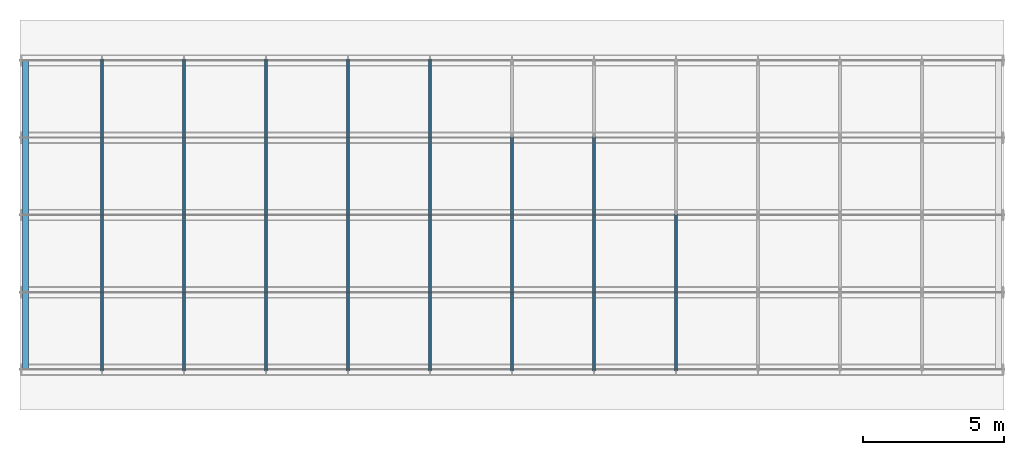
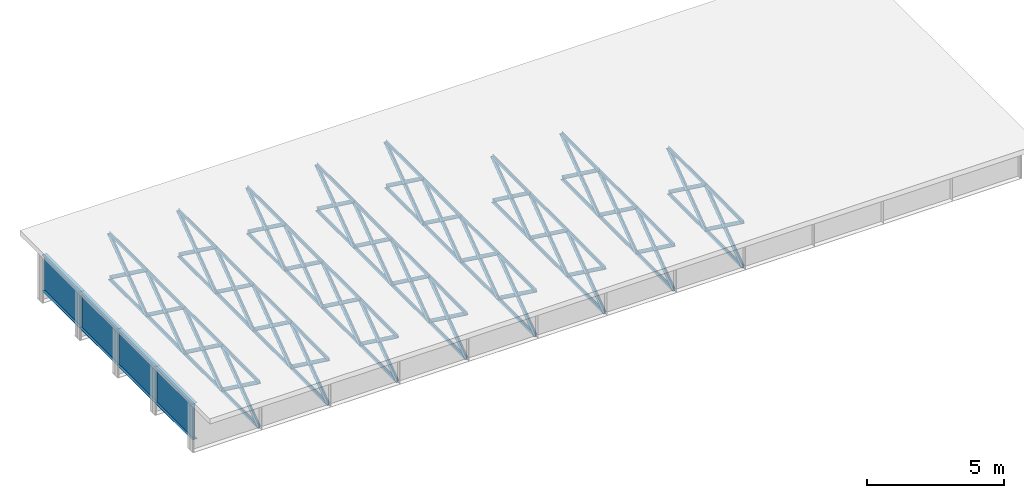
# One storey, part 1 of 17: 116 members.
"""IFC4 building model written with IfcOpenShell, lengths in metres."""

from ifc_helpers import new_model, si_unit, frame, origin, origin_with_axes, origin_2d_with_axis, place, context, subcontext, project, spatial, i_section, l_section, extrude, element, save


model = new_model("IFC4")

# Units and contexts
model_context = context("Model", 3, precision=1e-05, world=origin())
body_context = subcontext(model_context, "Body", "Model", "MODEL_VIEW")
ifc_project = project(units=[si_unit("LENGTHUNIT", "METRE"), si_unit("AREAUNIT", "SQUARE_METRE"), si_unit("VOLUMEUNIT", "CUBIC_METRE"), si_unit("PLANEANGLEUNIT", "RADIAN")], contexts=[model_context])

# Site, building, storey
site_placement = place(None, origin_with_axes())
site = spatial("IfcSite", under=ifc_project, at=site_placement, Name="Default Site")
building_placement = place(site_placement, origin_with_axes())
building = spatial("IfcBuilding", under=site, at=building_placement, Name="Bridge Structure")
storey_placement = place(building_placement, origin_with_axes())
storey = spatial("IfcBuildingStorey", under=building, at=storey_placement, Name="Superstructure")

# Members
for number, where, z_axis, x_axis, name in (
    (1, (0.2, -5.5, 0.2014999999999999), (0.0, 1.0, 0.0), (-1.0, 0.0, 0.0), "End Diaphragm"),
    (2, (0.2, -2.75, 0.2014999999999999), (0.0, 1.0, 0.0), (-1.0, 0.0, 0.0), "End Diaphragm"),
    (3, (0.2, 0.0, 0.2014999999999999), (0.0, 1.0, 0.0), (-1.0, 0.0, 0.0), "End Diaphragm"),
    (4, (0.2, 2.75, 0.2014999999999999), (0.0, 1.0, 0.0), (-1.0, 0.0, 0.0), "End Diaphragm"),
):
    element("IfcMember", number, at=place(storey_placement, frame(where, z_axis=z_axis, x_axis=x_axis)), inside=storey, Name=name, context=body_context, shape_type="SweptSolid", body=[
        extrude(i_section(OverallWidth=0.21, OverallDepth=1.611, WebThickness=0.014, FlangeThickness=0.012, at=origin_2d_with_axis()), origin_with_axes(), (0.0, 0.0, 1.0), 2.75),
    ])
for number, where, z_axis, x_axis, name in (
    (5, (2.9166666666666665, -5.5, 1.007), (0.0, 0.806777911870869, -0.590854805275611), (-1.0, 0.0, 0.0), "Diagonal Brace"),
    (6, (2.9166666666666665, -5.5, -1.007), (0.0, 0.806777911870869, 0.590854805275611), (-1.0, 0.0, 0.0), "Diagonal Brace"),
):
    element("IfcMember", number, at=place(storey_placement, frame(where, z_axis=z_axis, x_axis=x_axis)), inside=storey, Name=name, context=body_context, shape_type="SweptSolid", body=[
        extrude(l_section(Depth=0.151, Width=0.1, Thickness=0.008, at=origin_2d_with_axis()), origin_with_axes(), (0.0, 0.0, 1.0), 3.4086208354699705),
    ])
for number, where, z_axis, x_axis, name in (
    (7, (2.9166666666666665, -5.5, -1.007), (0.0, 1.0, 0.0), (-1.0, 0.0, 0.0), "Bottom Chord"),
    (8, (2.9166666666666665, -5.5, 1.007), (0.0, 1.0, 0.0), (-1.0, 0.0, 0.0), "Top Chord"),
):
    element("IfcMember", number, at=place(storey_placement, frame(where, z_axis=z_axis, x_axis=x_axis)), inside=storey, Name=name, context=body_context, shape_type="SweptSolid", body=[
        extrude(l_section(Depth=0.13, Width=0.08, Thickness=0.008, at=origin_2d_with_axis()), origin_with_axes(), (0.0, 0.0, 1.0), 2.75),
    ])
for number, where, z_axis, x_axis, name in (
    (9, (2.9166666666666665, -2.75, 1.007), (0.0, 0.806777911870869, -0.590854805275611), (-1.0, 0.0, 0.0), "Diagonal Brace"),
    (10, (2.9166666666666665, -2.75, -1.007), (0.0, 0.806777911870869, 0.590854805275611), (-1.0, 0.0, 0.0), "Diagonal Brace"),
):
    element("IfcMember", number, at=place(storey_placement, frame(where, z_axis=z_axis, x_axis=x_axis)), inside=storey, Name=name, context=body_context, shape_type="SweptSolid", body=[
        extrude(l_section(Depth=0.151, Width=0.1, Thickness=0.008, at=origin_2d_with_axis()), origin_with_axes(), (0.0, 0.0, 1.0), 3.4086208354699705),
    ])
for number, where, z_axis, x_axis, name in (
    (11, (2.9166666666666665, -2.75, -1.007), (0.0, 1.0, 0.0), (-1.0, 0.0, 0.0), "Bottom Chord"),
    (12, (2.9166666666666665, -2.75, 1.007), (0.0, 1.0, 0.0), (-1.0, 0.0, 0.0), "Top Chord"),
):
    element("IfcMember", number, at=place(storey_placement, frame(where, z_axis=z_axis, x_axis=x_axis)), inside=storey, Name=name, context=body_context, shape_type="SweptSolid", body=[
        extrude(l_section(Depth=0.13, Width=0.08, Thickness=0.008, at=origin_2d_with_axis()), origin_with_axes(), (0.0, 0.0, 1.0), 2.75),
    ])
for number, where, z_axis, x_axis, name in (
    (13, (2.9166666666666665, 0.0, 1.007), (0.0, 0.806777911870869, -0.590854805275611), (-1.0, 0.0, 0.0), "Diagonal Brace"),
    (14, (2.9166666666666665, 0.0, -1.007), (0.0, 0.806777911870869, 0.590854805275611), (-1.0, 0.0, 0.0), "Diagonal Brace"),
):
    element("IfcMember", number, at=place(storey_placement, frame(where, z_axis=z_axis, x_axis=x_axis)), inside=storey, Name=name, context=body_context, shape_type="SweptSolid", body=[
        extrude(l_section(Depth=0.151, Width=0.1, Thickness=0.008, at=origin_2d_with_axis()), origin_with_axes(), (0.0, 0.0, 1.0), 3.4086208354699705),
    ])
for number, where, z_axis, x_axis, name in (
    (15, (2.9166666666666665, 0.0, -1.007), (0.0, 1.0, 0.0), (-1.0, 0.0, 0.0), "Bottom Chord"),
    (16, (2.9166666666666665, 0.0, 1.007), (0.0, 1.0, 0.0), (-1.0, 0.0, 0.0), "Top Chord"),
):
    element("IfcMember", number, at=place(storey_placement, frame(where, z_axis=z_axis, x_axis=x_axis)), inside=storey, Name=name, context=body_context, shape_type="SweptSolid", body=[
        extrude(l_section(Depth=0.13, Width=0.08, Thickness=0.008, at=origin_2d_with_axis()), origin_with_axes(), (0.0, 0.0, 1.0), 2.75),
    ])
for number, where, z_axis, x_axis, name in (
    (17, (2.9166666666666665, 2.75, 1.007), (0.0, 0.806777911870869, -0.590854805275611), (-1.0, 0.0, 0.0), "Diagonal Brace"),
    (18, (2.9166666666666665, 2.75, -1.007), (0.0, 0.806777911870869, 0.590854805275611), (-1.0, 0.0, 0.0), "Diagonal Brace"),
):
    element("IfcMember", number, at=place(storey_placement, frame(where, z_axis=z_axis, x_axis=x_axis)), inside=storey, Name=name, context=body_context, shape_type="SweptSolid", body=[
        extrude(l_section(Depth=0.151, Width=0.1, Thickness=0.008, at=origin_2d_with_axis()), origin_with_axes(), (0.0, 0.0, 1.0), 3.4086208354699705),
    ])
for number, where, z_axis, x_axis, name in (
    (19, (2.9166666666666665, 2.75, -1.007), (0.0, 1.0, 0.0), (-1.0, 0.0, 0.0), "Bottom Chord"),
    (20, (2.9166666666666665, 2.75, 1.007), (0.0, 1.0, 0.0), (-1.0, 0.0, 0.0), "Top Chord"),
):
    element("IfcMember", number, at=place(storey_placement, frame(where, z_axis=z_axis, x_axis=x_axis)), inside=storey, Name=name, context=body_context, shape_type="SweptSolid", body=[
        extrude(l_section(Depth=0.13, Width=0.08, Thickness=0.008, at=origin_2d_with_axis()), origin_with_axes(), (0.0, 0.0, 1.0), 2.75),
    ])
for number, where, z_axis, x_axis, name in (
    (21, (5.833333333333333, -5.5, 1.007), (0.0, 0.806777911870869, -0.590854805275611), (-1.0, 0.0, 0.0), "Diagonal Brace"),
    (22, (5.833333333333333, -5.5, -1.007), (0.0, 0.806777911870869, 0.590854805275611), (-1.0, 0.0, 0.0), "Diagonal Brace"),
):
    element("IfcMember", number, at=place(storey_placement, frame(where, z_axis=z_axis, x_axis=x_axis)), inside=storey, Name=name, context=body_context, shape_type="SweptSolid", body=[
        extrude(l_section(Depth=0.151, Width=0.1, Thickness=0.008, at=origin_2d_with_axis()), origin_with_axes(), (0.0, 0.0, 1.0), 3.4086208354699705),
    ])
for number, where, z_axis, x_axis, name in (
    (23, (5.833333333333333, -5.5, -1.007), (0.0, 1.0, 0.0), (-1.0, 0.0, 0.0), "Bottom Chord"),
    (24, (5.833333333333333, -5.5, 1.007), (0.0, 1.0, 0.0), (-1.0, 0.0, 0.0), "Top Chord"),
):
    element("IfcMember", number, at=place(storey_placement, frame(where, z_axis=z_axis, x_axis=x_axis)), inside=storey, Name=name, context=body_context, shape_type="SweptSolid", body=[
        extrude(l_section(Depth=0.13, Width=0.08, Thickness=0.008, at=origin_2d_with_axis()), origin_with_axes(), (0.0, 0.0, 1.0), 2.75),
    ])
for number, where, z_axis, x_axis, name in (
    (25, (5.833333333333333, -2.75, 1.007), (0.0, 0.806777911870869, -0.590854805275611), (-1.0, 0.0, 0.0), "Diagonal Brace"),
    (26, (5.833333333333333, -2.75, -1.007), (0.0, 0.806777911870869, 0.590854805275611), (-1.0, 0.0, 0.0), "Diagonal Brace"),
):
    element("IfcMember", number, at=place(storey_placement, frame(where, z_axis=z_axis, x_axis=x_axis)), inside=storey, Name=name, context=body_context, shape_type="SweptSolid", body=[
        extrude(l_section(Depth=0.151, Width=0.1, Thickness=0.008, at=origin_2d_with_axis()), origin_with_axes(), (0.0, 0.0, 1.0), 3.4086208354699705),
    ])
for number, where, z_axis, x_axis, name in (
    (27, (5.833333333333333, -2.75, -1.007), (0.0, 1.0, 0.0), (-1.0, 0.0, 0.0), "Bottom Chord"),
    (28, (5.833333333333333, -2.75, 1.007), (0.0, 1.0, 0.0), (-1.0, 0.0, 0.0), "Top Chord"),
):
    element("IfcMember", number, at=place(storey_placement, frame(where, z_axis=z_axis, x_axis=x_axis)), inside=storey, Name=name, context=body_context, shape_type="SweptSolid", body=[
        extrude(l_section(Depth=0.13, Width=0.08, Thickness=0.008, at=origin_2d_with_axis()), origin_with_axes(), (0.0, 0.0, 1.0), 2.75),
    ])
for number, where, z_axis, x_axis, name in (
    (29, (5.833333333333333, 0.0, 1.007), (0.0, 0.806777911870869, -0.590854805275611), (-1.0, 0.0, 0.0), "Diagonal Brace"),
    (30, (5.833333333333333, 0.0, -1.007), (0.0, 0.806777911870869, 0.590854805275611), (-1.0, 0.0, 0.0), "Diagonal Brace"),
):
    element("IfcMember", number, at=place(storey_placement, frame(where, z_axis=z_axis, x_axis=x_axis)), inside=storey, Name=name, context=body_context, shape_type="SweptSolid", body=[
        extrude(l_section(Depth=0.151, Width=0.1, Thickness=0.008, at=origin_2d_with_axis()), origin_with_axes(), (0.0, 0.0, 1.0), 3.4086208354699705),
    ])
for number, where, z_axis, x_axis, name in (
    (31, (5.833333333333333, 0.0, -1.007), (0.0, 1.0, 0.0), (-1.0, 0.0, 0.0), "Bottom Chord"),
    (32, (5.833333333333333, 0.0, 1.007), (0.0, 1.0, 0.0), (-1.0, 0.0, 0.0), "Top Chord"),
):
    element("IfcMember", number, at=place(storey_placement, frame(where, z_axis=z_axis, x_axis=x_axis)), inside=storey, Name=name, context=body_context, shape_type="SweptSolid", body=[
        extrude(l_section(Depth=0.13, Width=0.08, Thickness=0.008, at=origin_2d_with_axis()), origin_with_axes(), (0.0, 0.0, 1.0), 2.75),
    ])
for number, where, z_axis, x_axis, name in (
    (33, (5.833333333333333, 2.75, 1.007), (0.0, 0.806777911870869, -0.590854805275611), (-1.0, 0.0, 0.0), "Diagonal Brace"),
    (34, (5.833333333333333, 2.75, -1.007), (0.0, 0.806777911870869, 0.590854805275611), (-1.0, 0.0, 0.0), "Diagonal Brace"),
):
    element("IfcMember", number, at=place(storey_placement, frame(where, z_axis=z_axis, x_axis=x_axis)), inside=storey, Name=name, context=body_context, shape_type="SweptSolid", body=[
        extrude(l_section(Depth=0.151, Width=0.1, Thickness=0.008, at=origin_2d_with_axis()), origin_with_axes(), (0.0, 0.0, 1.0), 3.4086208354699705),
    ])
for number, where, z_axis, x_axis, name in (
    (35, (5.833333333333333, 2.75, -1.007), (0.0, 1.0, 0.0), (-1.0, 0.0, 0.0), "Bottom Chord"),
    (36, (5.833333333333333, 2.75, 1.007), (0.0, 1.0, 0.0), (-1.0, 0.0, 0.0), "Top Chord"),
):
    element("IfcMember", number, at=place(storey_placement, frame(where, z_axis=z_axis, x_axis=x_axis)), inside=storey, Name=name, context=body_context, shape_type="SweptSolid", body=[
        extrude(l_section(Depth=0.13, Width=0.08, Thickness=0.008, at=origin_2d_with_axis()), origin_with_axes(), (0.0, 0.0, 1.0), 2.75),
    ])
for number, where, z_axis, x_axis, name in (
    (37, (8.75, -5.5, 1.007), (0.0, 0.806777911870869, -0.590854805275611), (-1.0, 0.0, 0.0), "Diagonal Brace"),
    (38, (8.75, -5.5, -1.007), (0.0, 0.806777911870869, 0.590854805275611), (-1.0, 0.0, 0.0), "Diagonal Brace"),
):
    element("IfcMember", number, at=place(storey_placement, frame(where, z_axis=z_axis, x_axis=x_axis)), inside=storey, Name=name, context=body_context, shape_type="SweptSolid", body=[
        extrude(l_section(Depth=0.151, Width=0.1, Thickness=0.008, at=origin_2d_with_axis()), origin_with_axes(), (0.0, 0.0, 1.0), 3.4086208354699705),
    ])
for number, where, z_axis, x_axis, name in (
    (39, (8.75, -5.5, -1.007), (0.0, 1.0, 0.0), (-1.0, 0.0, 0.0), "Bottom Chord"),
    (40, (8.75, -5.5, 1.007), (0.0, 1.0, 0.0), (-1.0, 0.0, 0.0), "Top Chord"),
):
    element("IfcMember", number, at=place(storey_placement, frame(where, z_axis=z_axis, x_axis=x_axis)), inside=storey, Name=name, context=body_context, shape_type="SweptSolid", body=[
        extrude(l_section(Depth=0.13, Width=0.08, Thickness=0.008, at=origin_2d_with_axis()), origin_with_axes(), (0.0, 0.0, 1.0), 2.75),
    ])
for number, where, z_axis, x_axis, name in (
    (41, (8.75, -2.75, 1.007), (0.0, 0.806777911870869, -0.590854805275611), (-1.0, 0.0, 0.0), "Diagonal Brace"),
    (42, (8.75, -2.75, -1.007), (0.0, 0.806777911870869, 0.590854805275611), (-1.0, 0.0, 0.0), "Diagonal Brace"),
):
    element("IfcMember", number, at=place(storey_placement, frame(where, z_axis=z_axis, x_axis=x_axis)), inside=storey, Name=name, context=body_context, shape_type="SweptSolid", body=[
        extrude(l_section(Depth=0.151, Width=0.1, Thickness=0.008, at=origin_2d_with_axis()), origin_with_axes(), (0.0, 0.0, 1.0), 3.4086208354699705),
    ])
for number, where, z_axis, x_axis, name in (
    (43, (8.75, -2.75, -1.007), (0.0, 1.0, 0.0), (-1.0, 0.0, 0.0), "Bottom Chord"),
    (44, (8.75, -2.75, 1.007), (0.0, 1.0, 0.0), (-1.0, 0.0, 0.0), "Top Chord"),
):
    element("IfcMember", number, at=place(storey_placement, frame(where, z_axis=z_axis, x_axis=x_axis)), inside=storey, Name=name, context=body_context, shape_type="SweptSolid", body=[
        extrude(l_section(Depth=0.13, Width=0.08, Thickness=0.008, at=origin_2d_with_axis()), origin_with_axes(), (0.0, 0.0, 1.0), 2.75),
    ])
for number, where, z_axis, x_axis, name in (
    (45, (8.75, 0.0, 1.007), (0.0, 0.806777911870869, -0.590854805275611), (-1.0, 0.0, 0.0), "Diagonal Brace"),
    (46, (8.75, 0.0, -1.007), (0.0, 0.806777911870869, 0.590854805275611), (-1.0, 0.0, 0.0), "Diagonal Brace"),
):
    element("IfcMember", number, at=place(storey_placement, frame(where, z_axis=z_axis, x_axis=x_axis)), inside=storey, Name=name, context=body_context, shape_type="SweptSolid", body=[
        extrude(l_section(Depth=0.151, Width=0.1, Thickness=0.008, at=origin_2d_with_axis()), origin_with_axes(), (0.0, 0.0, 1.0), 3.4086208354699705),
    ])
for number, where, z_axis, x_axis, name in (
    (47, (8.75, 0.0, -1.007), (0.0, 1.0, 0.0), (-1.0, 0.0, 0.0), "Bottom Chord"),
    (48, (8.75, 0.0, 1.007), (0.0, 1.0, 0.0), (-1.0, 0.0, 0.0), "Top Chord"),
):
    element("IfcMember", number, at=place(storey_placement, frame(where, z_axis=z_axis, x_axis=x_axis)), inside=storey, Name=name, context=body_context, shape_type="SweptSolid", body=[
        extrude(l_section(Depth=0.13, Width=0.08, Thickness=0.008, at=origin_2d_with_axis()), origin_with_axes(), (0.0, 0.0, 1.0), 2.75),
    ])
for number, where, z_axis, x_axis, name in (
    (49, (8.75, 2.75, 1.007), (0.0, 0.806777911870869, -0.590854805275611), (-1.0, 0.0, 0.0), "Diagonal Brace"),
    (50, (8.75, 2.75, -1.007), (0.0, 0.806777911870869, 0.590854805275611), (-1.0, 0.0, 0.0), "Diagonal Brace"),
):
    element("IfcMember", number, at=place(storey_placement, frame(where, z_axis=z_axis, x_axis=x_axis)), inside=storey, Name=name, context=body_context, shape_type="SweptSolid", body=[
        extrude(l_section(Depth=0.151, Width=0.1, Thickness=0.008, at=origin_2d_with_axis()), origin_with_axes(), (0.0, 0.0, 1.0), 3.4086208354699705),
    ])
for number, where, z_axis, x_axis, name in (
    (51, (8.75, 2.75, -1.007), (0.0, 1.0, 0.0), (-1.0, 0.0, 0.0), "Bottom Chord"),
    (52, (8.75, 2.75, 1.007), (0.0, 1.0, 0.0), (-1.0, 0.0, 0.0), "Top Chord"),
):
    element("IfcMember", number, at=place(storey_placement, frame(where, z_axis=z_axis, x_axis=x_axis)), inside=storey, Name=name, context=body_context, shape_type="SweptSolid", body=[
        extrude(l_section(Depth=0.13, Width=0.08, Thickness=0.008, at=origin_2d_with_axis()), origin_with_axes(), (0.0, 0.0, 1.0), 2.75),
    ])
for number, where, z_axis, x_axis, name in (
    (53, (11.666666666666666, -5.5, 1.007), (0.0, 0.806777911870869, -0.590854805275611), (-1.0, 0.0, 0.0), "Diagonal Brace"),
    (54, (11.666666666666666, -5.5, -1.007), (0.0, 0.806777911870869, 0.590854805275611), (-1.0, 0.0, 0.0), "Diagonal Brace"),
):
    element("IfcMember", number, at=place(storey_placement, frame(where, z_axis=z_axis, x_axis=x_axis)), inside=storey, Name=name, context=body_context, shape_type="SweptSolid", body=[
        extrude(l_section(Depth=0.151, Width=0.1, Thickness=0.008, at=origin_2d_with_axis()), origin_with_axes(), (0.0, 0.0, 1.0), 3.4086208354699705),
    ])
for number, where, z_axis, x_axis, name in (
    (55, (11.666666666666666, -5.5, -1.007), (0.0, 1.0, 0.0), (-1.0, 0.0, 0.0), "Bottom Chord"),
    (56, (11.666666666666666, -5.5, 1.007), (0.0, 1.0, 0.0), (-1.0, 0.0, 0.0), "Top Chord"),
):
    element("IfcMember", number, at=place(storey_placement, frame(where, z_axis=z_axis, x_axis=x_axis)), inside=storey, Name=name, context=body_context, shape_type="SweptSolid", body=[
        extrude(l_section(Depth=0.13, Width=0.08, Thickness=0.008, at=origin_2d_with_axis()), origin_with_axes(), (0.0, 0.0, 1.0), 2.75),
    ])
for number, where, z_axis, x_axis, name in (
    (57, (11.666666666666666, -2.75, 1.007), (0.0, 0.806777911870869, -0.590854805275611), (-1.0, 0.0, 0.0), "Diagonal Brace"),
    (58, (11.666666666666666, -2.75, -1.007), (0.0, 0.806777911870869, 0.590854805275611), (-1.0, 0.0, 0.0), "Diagonal Brace"),
):
    element("IfcMember", number, at=place(storey_placement, frame(where, z_axis=z_axis, x_axis=x_axis)), inside=storey, Name=name, context=body_context, shape_type="SweptSolid", body=[
        extrude(l_section(Depth=0.151, Width=0.1, Thickness=0.008, at=origin_2d_with_axis()), origin_with_axes(), (0.0, 0.0, 1.0), 3.4086208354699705),
    ])
for number, where, z_axis, x_axis, name in (
    (59, (11.666666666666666, -2.75, -1.007), (0.0, 1.0, 0.0), (-1.0, 0.0, 0.0), "Bottom Chord"),
    (60, (11.666666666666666, -2.75, 1.007), (0.0, 1.0, 0.0), (-1.0, 0.0, 0.0), "Top Chord"),
):
    element("IfcMember", number, at=place(storey_placement, frame(where, z_axis=z_axis, x_axis=x_axis)), inside=storey, Name=name, context=body_context, shape_type="SweptSolid", body=[
        extrude(l_section(Depth=0.13, Width=0.08, Thickness=0.008, at=origin_2d_with_axis()), origin_with_axes(), (0.0, 0.0, 1.0), 2.75),
    ])
for number, where, z_axis, x_axis, name in (
    (61, (11.666666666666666, 0.0, 1.007), (0.0, 0.806777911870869, -0.590854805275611), (-1.0, 0.0, 0.0), "Diagonal Brace"),
    (62, (11.666666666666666, 0.0, -1.007), (0.0, 0.806777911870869, 0.590854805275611), (-1.0, 0.0, 0.0), "Diagonal Brace"),
):
    element("IfcMember", number, at=place(storey_placement, frame(where, z_axis=z_axis, x_axis=x_axis)), inside=storey, Name=name, context=body_context, shape_type="SweptSolid", body=[
        extrude(l_section(Depth=0.151, Width=0.1, Thickness=0.008, at=origin_2d_with_axis()), origin_with_axes(), (0.0, 0.0, 1.0), 3.4086208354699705),
    ])
for number, where, z_axis, x_axis, name in (
    (63, (11.666666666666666, 0.0, -1.007), (0.0, 1.0, 0.0), (-1.0, 0.0, 0.0), "Bottom Chord"),
    (64, (11.666666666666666, 0.0, 1.007), (0.0, 1.0, 0.0), (-1.0, 0.0, 0.0), "Top Chord"),
):
    element("IfcMember", number, at=place(storey_placement, frame(where, z_axis=z_axis, x_axis=x_axis)), inside=storey, Name=name, context=body_context, shape_type="SweptSolid", body=[
        extrude(l_section(Depth=0.13, Width=0.08, Thickness=0.008, at=origin_2d_with_axis()), origin_with_axes(), (0.0, 0.0, 1.0), 2.75),
    ])
for number, where, z_axis, x_axis, name in (
    (65, (11.666666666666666, 2.75, 1.007), (0.0, 0.806777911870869, -0.590854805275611), (-1.0, 0.0, 0.0), "Diagonal Brace"),
    (66, (11.666666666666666, 2.75, -1.007), (0.0, 0.806777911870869, 0.590854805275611), (-1.0, 0.0, 0.0), "Diagonal Brace"),
):
    element("IfcMember", number, at=place(storey_placement, frame(where, z_axis=z_axis, x_axis=x_axis)), inside=storey, Name=name, context=body_context, shape_type="SweptSolid", body=[
        extrude(l_section(Depth=0.151, Width=0.1, Thickness=0.008, at=origin_2d_with_axis()), origin_with_axes(), (0.0, 0.0, 1.0), 3.4086208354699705),
    ])
for number, where, z_axis, x_axis, name in (
    (67, (11.666666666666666, 2.75, -1.007), (0.0, 1.0, 0.0), (-1.0, 0.0, 0.0), "Bottom Chord"),
    (68, (11.666666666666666, 2.75, 1.007), (0.0, 1.0, 0.0), (-1.0, 0.0, 0.0), "Top Chord"),
):
    element("IfcMember", number, at=place(storey_placement, frame(where, z_axis=z_axis, x_axis=x_axis)), inside=storey, Name=name, context=body_context, shape_type="SweptSolid", body=[
        extrude(l_section(Depth=0.13, Width=0.08, Thickness=0.008, at=origin_2d_with_axis()), origin_with_axes(), (0.0, 0.0, 1.0), 2.75),
    ])
for number, where, z_axis, x_axis, name in (
    (69, (14.583333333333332, -5.5, 1.007), (0.0, 0.806777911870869, -0.590854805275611), (-1.0, 0.0, 0.0), "Diagonal Brace"),
    (70, (14.583333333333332, -5.5, -1.007), (0.0, 0.806777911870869, 0.590854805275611), (-1.0, 0.0, 0.0), "Diagonal Brace"),
):
    element("IfcMember", number, at=place(storey_placement, frame(where, z_axis=z_axis, x_axis=x_axis)), inside=storey, Name=name, context=body_context, shape_type="SweptSolid", body=[
        extrude(l_section(Depth=0.151, Width=0.1, Thickness=0.008, at=origin_2d_with_axis()), origin_with_axes(), (0.0, 0.0, 1.0), 3.4086208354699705),
    ])
for number, where, z_axis, x_axis, name in (
    (71, (14.583333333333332, -5.5, -1.007), (0.0, 1.0, 0.0), (-1.0, 0.0, 0.0), "Bottom Chord"),
    (72, (14.583333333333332, -5.5, 1.007), (0.0, 1.0, 0.0), (-1.0, 0.0, 0.0), "Top Chord"),
):
    element("IfcMember", number, at=place(storey_placement, frame(where, z_axis=z_axis, x_axis=x_axis)), inside=storey, Name=name, context=body_context, shape_type="SweptSolid", body=[
        extrude(l_section(Depth=0.13, Width=0.08, Thickness=0.008, at=origin_2d_with_axis()), origin_with_axes(), (0.0, 0.0, 1.0), 2.75),
    ])
for number, where, z_axis, x_axis, name in (
    (73, (14.583333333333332, -2.75, 1.007), (0.0, 0.806777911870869, -0.590854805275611), (-1.0, 0.0, 0.0), "Diagonal Brace"),
    (74, (14.583333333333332, -2.75, -1.007), (0.0, 0.806777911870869, 0.590854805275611), (-1.0, 0.0, 0.0), "Diagonal Brace"),
):
    element("IfcMember", number, at=place(storey_placement, frame(where, z_axis=z_axis, x_axis=x_axis)), inside=storey, Name=name, context=body_context, shape_type="SweptSolid", body=[
        extrude(l_section(Depth=0.151, Width=0.1, Thickness=0.008, at=origin_2d_with_axis()), origin_with_axes(), (0.0, 0.0, 1.0), 3.4086208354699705),
    ])
for number, where, z_axis, x_axis, name in (
    (75, (14.583333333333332, -2.75, -1.007), (0.0, 1.0, 0.0), (-1.0, 0.0, 0.0), "Bottom Chord"),
    (76, (14.583333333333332, -2.75, 1.007), (0.0, 1.0, 0.0), (-1.0, 0.0, 0.0), "Top Chord"),
):
    element("IfcMember", number, at=place(storey_placement, frame(where, z_axis=z_axis, x_axis=x_axis)), inside=storey, Name=name, context=body_context, shape_type="SweptSolid", body=[
        extrude(l_section(Depth=0.13, Width=0.08, Thickness=0.008, at=origin_2d_with_axis()), origin_with_axes(), (0.0, 0.0, 1.0), 2.75),
    ])
for number, where, z_axis, x_axis, name in (
    (77, (14.583333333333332, 0.0, 1.007), (0.0, 0.806777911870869, -0.590854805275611), (-1.0, 0.0, 0.0), "Diagonal Brace"),
    (78, (14.583333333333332, 0.0, -1.007), (0.0, 0.806777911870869, 0.590854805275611), (-1.0, 0.0, 0.0), "Diagonal Brace"),
):
    element("IfcMember", number, at=place(storey_placement, frame(where, z_axis=z_axis, x_axis=x_axis)), inside=storey, Name=name, context=body_context, shape_type="SweptSolid", body=[
        extrude(l_section(Depth=0.151, Width=0.1, Thickness=0.008, at=origin_2d_with_axis()), origin_with_axes(), (0.0, 0.0, 1.0), 3.4086208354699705),
    ])
for number, where, z_axis, x_axis, name in (
    (79, (14.583333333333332, 0.0, -1.007), (0.0, 1.0, 0.0), (-1.0, 0.0, 0.0), "Bottom Chord"),
    (80, (14.583333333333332, 0.0, 1.007), (0.0, 1.0, 0.0), (-1.0, 0.0, 0.0), "Top Chord"),
):
    element("IfcMember", number, at=place(storey_placement, frame(where, z_axis=z_axis, x_axis=x_axis)), inside=storey, Name=name, context=body_context, shape_type="SweptSolid", body=[
        extrude(l_section(Depth=0.13, Width=0.08, Thickness=0.008, at=origin_2d_with_axis()), origin_with_axes(), (0.0, 0.0, 1.0), 2.75),
    ])
for number, where, z_axis, x_axis, name in (
    (81, (14.583333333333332, 2.75, 1.007), (0.0, 0.806777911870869, -0.590854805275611), (-1.0, 0.0, 0.0), "Diagonal Brace"),
    (82, (14.583333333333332, 2.75, -1.007), (0.0, 0.806777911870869, 0.590854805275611), (-1.0, 0.0, 0.0), "Diagonal Brace"),
):
    element("IfcMember", number, at=place(storey_placement, frame(where, z_axis=z_axis, x_axis=x_axis)), inside=storey, Name=name, context=body_context, shape_type="SweptSolid", body=[
        extrude(l_section(Depth=0.151, Width=0.1, Thickness=0.008, at=origin_2d_with_axis()), origin_with_axes(), (0.0, 0.0, 1.0), 3.4086208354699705),
    ])
for number, where, z_axis, x_axis, name in (
    (83, (14.583333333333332, 2.75, -1.007), (0.0, 1.0, 0.0), (-1.0, 0.0, 0.0), "Bottom Chord"),
    (84, (14.583333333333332, 2.75, 1.007), (0.0, 1.0, 0.0), (-1.0, 0.0, 0.0), "Top Chord"),
):
    element("IfcMember", number, at=place(storey_placement, frame(where, z_axis=z_axis, x_axis=x_axis)), inside=storey, Name=name, context=body_context, shape_type="SweptSolid", body=[
        extrude(l_section(Depth=0.13, Width=0.08, Thickness=0.008, at=origin_2d_with_axis()), origin_with_axes(), (0.0, 0.0, 1.0), 2.75),
    ])
for number, where, z_axis, x_axis, name in (
    (85, (17.5, -5.5, 1.007), (0.0, 0.806777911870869, -0.590854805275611), (-1.0, 0.0, 0.0), "Diagonal Brace"),
    (86, (17.5, -5.5, -1.007), (0.0, 0.806777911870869, 0.590854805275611), (-1.0, 0.0, 0.0), "Diagonal Brace"),
):
    element("IfcMember", number, at=place(storey_placement, frame(where, z_axis=z_axis, x_axis=x_axis)), inside=storey, Name=name, context=body_context, shape_type="SweptSolid", body=[
        extrude(l_section(Depth=0.151, Width=0.1, Thickness=0.008, at=origin_2d_with_axis()), origin_with_axes(), (0.0, 0.0, 1.0), 3.4086208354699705),
    ])
for number, where, z_axis, x_axis, name in (
    (87, (17.5, -5.5, -1.007), (0.0, 1.0, 0.0), (-1.0, 0.0, 0.0), "Bottom Chord"),
    (88, (17.5, -5.5, 1.007), (0.0, 1.0, 0.0), (-1.0, 0.0, 0.0), "Top Chord"),
):
    element("IfcMember", number, at=place(storey_placement, frame(where, z_axis=z_axis, x_axis=x_axis)), inside=storey, Name=name, context=body_context, shape_type="SweptSolid", body=[
        extrude(l_section(Depth=0.13, Width=0.08, Thickness=0.008, at=origin_2d_with_axis()), origin_with_axes(), (0.0, 0.0, 1.0), 2.75),
    ])
for number, where, z_axis, x_axis, name in (
    (89, (17.5, -2.75, 1.007), (0.0, 0.806777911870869, -0.590854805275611), (-1.0, 0.0, 0.0), "Diagonal Brace"),
    (90, (17.5, -2.75, -1.007), (0.0, 0.806777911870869, 0.590854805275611), (-1.0, 0.0, 0.0), "Diagonal Brace"),
):
    element("IfcMember", number, at=place(storey_placement, frame(where, z_axis=z_axis, x_axis=x_axis)), inside=storey, Name=name, context=body_context, shape_type="SweptSolid", body=[
        extrude(l_section(Depth=0.151, Width=0.1, Thickness=0.008, at=origin_2d_with_axis()), origin_with_axes(), (0.0, 0.0, 1.0), 3.4086208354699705),
    ])
for number, where, z_axis, x_axis, name in (
    (91, (17.5, -2.75, -1.007), (0.0, 1.0, 0.0), (-1.0, 0.0, 0.0), "Bottom Chord"),
    (92, (17.5, -2.75, 1.007), (0.0, 1.0, 0.0), (-1.0, 0.0, 0.0), "Top Chord"),
):
    element("IfcMember", number, at=place(storey_placement, frame(where, z_axis=z_axis, x_axis=x_axis)), inside=storey, Name=name, context=body_context, shape_type="SweptSolid", body=[
        extrude(l_section(Depth=0.13, Width=0.08, Thickness=0.008, at=origin_2d_with_axis()), origin_with_axes(), (0.0, 0.0, 1.0), 2.75),
    ])
for number, where, z_axis, x_axis, name in (
    (93, (17.5, 0.0, 1.007), (0.0, 0.806777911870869, -0.590854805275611), (-1.0, 0.0, 0.0), "Diagonal Brace"),
    (94, (17.5, 0.0, -1.007), (0.0, 0.806777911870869, 0.590854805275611), (-1.0, 0.0, 0.0), "Diagonal Brace"),
):
    element("IfcMember", number, at=place(storey_placement, frame(where, z_axis=z_axis, x_axis=x_axis)), inside=storey, Name=name, context=body_context, shape_type="SweptSolid", body=[
        extrude(l_section(Depth=0.151, Width=0.1, Thickness=0.008, at=origin_2d_with_axis()), origin_with_axes(), (0.0, 0.0, 1.0), 3.4086208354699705),
    ])
for number, where, z_axis, x_axis, name in (
    (95, (17.5, 0.0, -1.007), (0.0, 1.0, 0.0), (-1.0, 0.0, 0.0), "Bottom Chord"),
    (96, (17.5, 0.0, 1.007), (0.0, 1.0, 0.0), (-1.0, 0.0, 0.0), "Top Chord"),
):
    element("IfcMember", number, at=place(storey_placement, frame(where, z_axis=z_axis, x_axis=x_axis)), inside=storey, Name=name, context=body_context, shape_type="SweptSolid", body=[
        extrude(l_section(Depth=0.13, Width=0.08, Thickness=0.008, at=origin_2d_with_axis()), origin_with_axes(), (0.0, 0.0, 1.0), 2.75),
    ])
for number, where, z_axis, x_axis, name in (
    (97, (20.416666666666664, -5.5, 1.007), (0.0, 0.806777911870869, -0.590854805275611), (-1.0, 0.0, 0.0), "Diagonal Brace"),
    (98, (20.416666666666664, -5.5, -1.007), (0.0, 0.806777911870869, 0.590854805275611), (-1.0, 0.0, 0.0), "Diagonal Brace"),
):
    element("IfcMember", number, at=place(storey_placement, frame(where, z_axis=z_axis, x_axis=x_axis)), inside=storey, Name=name, context=body_context, shape_type="SweptSolid", body=[
        extrude(l_section(Depth=0.151, Width=0.1, Thickness=0.008, at=origin_2d_with_axis()), origin_with_axes(), (0.0, 0.0, 1.0), 3.4086208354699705),
    ])
for number, where, z_axis, x_axis, name in (
    (99, (20.416666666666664, -5.5, -1.007), (0.0, 1.0, 0.0), (-1.0, 0.0, 0.0), "Bottom Chord"),
    (100, (20.416666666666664, -5.5, 1.007), (0.0, 1.0, 0.0), (-1.0, 0.0, 0.0), "Top Chord"),
):
    element("IfcMember", number, at=place(storey_placement, frame(where, z_axis=z_axis, x_axis=x_axis)), inside=storey, Name=name, context=body_context, shape_type="SweptSolid", body=[
        extrude(l_section(Depth=0.13, Width=0.08, Thickness=0.008, at=origin_2d_with_axis()), origin_with_axes(), (0.0, 0.0, 1.0), 2.75),
    ])
for number, where, z_axis, x_axis, name in (
    (101, (20.416666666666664, -2.75, 1.007), (0.0, 0.806777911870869, -0.590854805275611), (-1.0, 0.0, 0.0), "Diagonal Brace"),
    (102, (20.416666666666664, -2.75, -1.007), (0.0, 0.806777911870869, 0.590854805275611), (-1.0, 0.0, 0.0), "Diagonal Brace"),
):
    element("IfcMember", number, at=place(storey_placement, frame(where, z_axis=z_axis, x_axis=x_axis)), inside=storey, Name=name, context=body_context, shape_type="SweptSolid", body=[
        extrude(l_section(Depth=0.151, Width=0.1, Thickness=0.008, at=origin_2d_with_axis()), origin_with_axes(), (0.0, 0.0, 1.0), 3.4086208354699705),
    ])
for number, where, z_axis, x_axis, name in (
    (103, (20.416666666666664, -2.75, -1.007), (0.0, 1.0, 0.0), (-1.0, 0.0, 0.0), "Bottom Chord"),
    (104, (20.416666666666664, -2.75, 1.007), (0.0, 1.0, 0.0), (-1.0, 0.0, 0.0), "Top Chord"),
):
    element("IfcMember", number, at=place(storey_placement, frame(where, z_axis=z_axis, x_axis=x_axis)), inside=storey, Name=name, context=body_context, shape_type="SweptSolid", body=[
        extrude(l_section(Depth=0.13, Width=0.08, Thickness=0.008, at=origin_2d_with_axis()), origin_with_axes(), (0.0, 0.0, 1.0), 2.75),
    ])
for number, where, z_axis, x_axis, name in (
    (105, (20.416666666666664, 0.0, 1.007), (0.0, 0.806777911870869, -0.590854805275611), (-1.0, 0.0, 0.0), "Diagonal Brace"),
    (106, (20.416666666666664, 0.0, -1.007), (0.0, 0.806777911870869, 0.590854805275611), (-1.0, 0.0, 0.0), "Diagonal Brace"),
):
    element("IfcMember", number, at=place(storey_placement, frame(where, z_axis=z_axis, x_axis=x_axis)), inside=storey, Name=name, context=body_context, shape_type="SweptSolid", body=[
        extrude(l_section(Depth=0.151, Width=0.1, Thickness=0.008, at=origin_2d_with_axis()), origin_with_axes(), (0.0, 0.0, 1.0), 3.4086208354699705),
    ])
for number, where, z_axis, x_axis, name in (
    (107, (20.416666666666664, 0.0, -1.007), (0.0, 1.0, 0.0), (-1.0, 0.0, 0.0), "Bottom Chord"),
    (108, (20.416666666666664, 0.0, 1.007), (0.0, 1.0, 0.0), (-1.0, 0.0, 0.0), "Top Chord"),
):
    element("IfcMember", number, at=place(storey_placement, frame(where, z_axis=z_axis, x_axis=x_axis)), inside=storey, Name=name, context=body_context, shape_type="SweptSolid", body=[
        extrude(l_section(Depth=0.13, Width=0.08, Thickness=0.008, at=origin_2d_with_axis()), origin_with_axes(), (0.0, 0.0, 1.0), 2.75),
    ])
for number, where, z_axis, x_axis, name in (
    (109, (23.333333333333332, -5.5, 1.007), (0.0, 0.806777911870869, -0.590854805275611), (-1.0, 0.0, 0.0), "Diagonal Brace"),
    (110, (23.333333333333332, -5.5, -1.007), (0.0, 0.806777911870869, 0.590854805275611), (-1.0, 0.0, 0.0), "Diagonal Brace"),
):
    element("IfcMember", number, at=place(storey_placement, frame(where, z_axis=z_axis, x_axis=x_axis)), inside=storey, Name=name, context=body_context, shape_type="SweptSolid", body=[
        extrude(l_section(Depth=0.151, Width=0.1, Thickness=0.008, at=origin_2d_with_axis()), origin_with_axes(), (0.0, 0.0, 1.0), 3.4086208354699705),
    ])
for number, where, z_axis, x_axis, name in (
    (111, (23.333333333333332, -5.5, -1.007), (0.0, 1.0, 0.0), (-1.0, 0.0, 0.0), "Bottom Chord"),
    (112, (23.333333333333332, -5.5, 1.007), (0.0, 1.0, 0.0), (-1.0, 0.0, 0.0), "Top Chord"),
):
    element("IfcMember", number, at=place(storey_placement, frame(where, z_axis=z_axis, x_axis=x_axis)), inside=storey, Name=name, context=body_context, shape_type="SweptSolid", body=[
        extrude(l_section(Depth=0.13, Width=0.08, Thickness=0.008, at=origin_2d_with_axis()), origin_with_axes(), (0.0, 0.0, 1.0), 2.75),
    ])
for number, where, z_axis, x_axis, name in (
    (113, (23.333333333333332, -2.75, 1.007), (0.0, 0.806777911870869, -0.590854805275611), (-1.0, 0.0, 0.0), "Diagonal Brace"),
    (114, (23.333333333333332, -2.75, -1.007), (0.0, 0.806777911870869, 0.590854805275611), (-1.0, 0.0, 0.0), "Diagonal Brace"),
):
    element("IfcMember", number, at=place(storey_placement, frame(where, z_axis=z_axis, x_axis=x_axis)), inside=storey, Name=name, context=body_context, shape_type="SweptSolid", body=[
        extrude(l_section(Depth=0.151, Width=0.1, Thickness=0.008, at=origin_2d_with_axis()), origin_with_axes(), (0.0, 0.0, 1.0), 3.4086208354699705),
    ])
for number, where, z_axis, x_axis, name in (
    (115, (23.333333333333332, -2.75, -1.007), (0.0, 1.0, 0.0), (-1.0, 0.0, 0.0), "Bottom Chord"),
    (116, (23.333333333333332, -2.75, 1.007), (0.0, 1.0, 0.0), (-1.0, 0.0, 0.0), "Top Chord"),
):
    element("IfcMember", number, at=place(storey_placement, frame(where, z_axis=z_axis, x_axis=x_axis)), inside=storey, Name=name, context=body_context, shape_type="SweptSolid", body=[
        extrude(l_section(Depth=0.13, Width=0.08, Thickness=0.008, at=origin_2d_with_axis()), origin_with_axes(), (0.0, 0.0, 1.0), 2.75),
    ])

save(model, "model.ifc")
